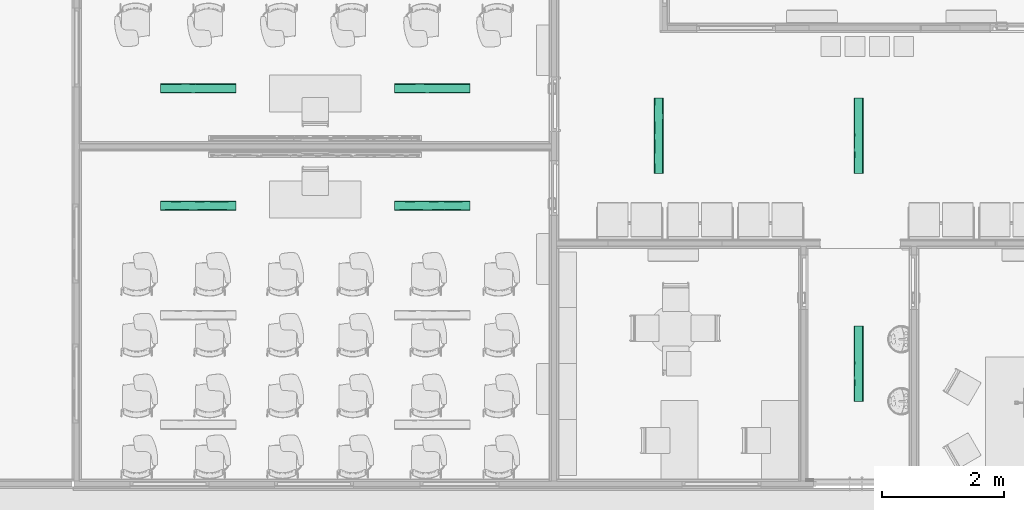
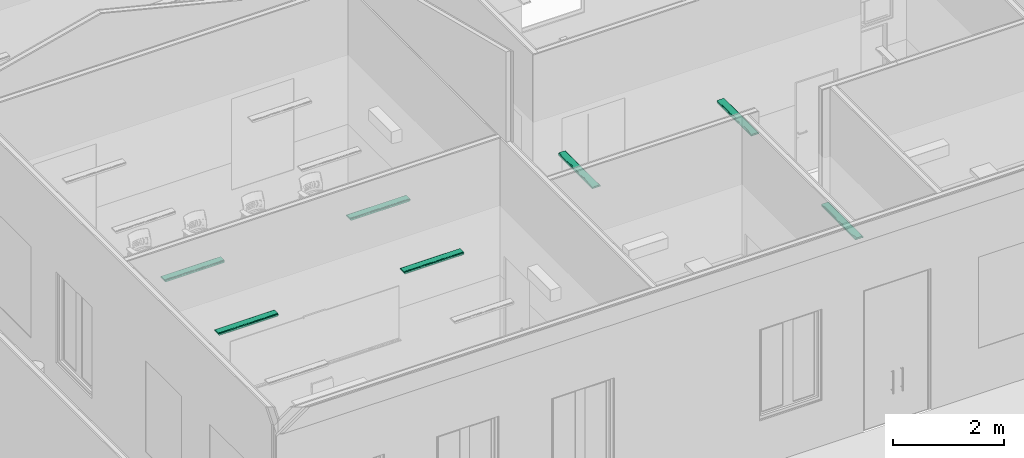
# One storey, part 52 of 155: 7 flow terminals.
"""IFC2X3 building model written with IfcOpenShell, lengths in metres."""

from ifc_helpers import new_model, entity, si_unit, converted_unit, derived_unit, direction, frame, origin, place, context, subcontext, project, spatial, faceted_brep, source, transform, mapped, material, material_list, type_object, type_shapes, element, save


model = new_model("IFC2X3")

# Units and contexts
model_context = context("Model", 3, precision=1e-05, world=origin(), true_north=direction((6.12303176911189e-17, 1.0)))
body_context = subcontext(model_context, "Body", "Model", "MODEL_VIEW")
ifc_project = project(units=[si_unit("LENGTHUNIT", "METRE"), si_unit("AREAUNIT", "SQUARE_METRE"), si_unit("VOLUMEUNIT", "CUBIC_METRE"), converted_unit("PLANEANGLEUNIT", "DEGREE", entity("IfcRatioMeasure", 0.0174532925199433), si_unit("PLANEANGLEUNIT", "RADIAN"), dimensions=[0, 0, 0, 0, 0, 0, 0]), si_unit("MASSUNIT", "GRAM", prefix="KILO"), derived_unit("MASSDENSITYUNIT", [(si_unit("MASSUNIT", "GRAM", prefix="KILO"), 1), (si_unit("LENGTHUNIT", "METRE"), -3)]), si_unit("TIMEUNIT", "SECOND"), si_unit("FREQUENCYUNIT", "HERTZ"), si_unit("THERMODYNAMICTEMPERATUREUNIT", "DEGREE_CELSIUS"), derived_unit("THERMALTRANSMITTANCEUNIT", [(si_unit("MASSUNIT", "GRAM", prefix="KILO"), 1), (si_unit("THERMODYNAMICTEMPERATUREUNIT", "KELVIN"), -1), (si_unit("TIMEUNIT", "SECOND"), -3)]), derived_unit("VOLUMETRICFLOWRATEUNIT", [(si_unit("LENGTHUNIT", "METRE"), 3), (si_unit("TIMEUNIT", "SECOND"), -1)]), si_unit("ELECTRICCURRENTUNIT", "AMPERE"), si_unit("ELECTRICVOLTAGEUNIT", "VOLT"), si_unit("POWERUNIT", "WATT"), si_unit("FORCEUNIT", "NEWTON", prefix="KILO"), si_unit("ILLUMINANCEUNIT", "LUX"), si_unit("LUMINOUSFLUXUNIT", "LUMEN"), si_unit("LUMINOUSINTENSITYUNIT", "CANDELA"), derived_unit("USERDEFINED", [(si_unit("MASSUNIT", "GRAM", prefix="KILO"), -1), (si_unit("LENGTHUNIT", "METRE"), -2), (si_unit("TIMEUNIT", "SECOND"), 3), (si_unit("LUMINOUSFLUXUNIT", "LUMEN"), 1)]), derived_unit("LINEARVELOCITYUNIT", [(si_unit("LENGTHUNIT", "METRE"), 1), (si_unit("TIMEUNIT", "SECOND"), -1)]), si_unit("PRESSUREUNIT", "PASCAL"), derived_unit("USERDEFINED", [(si_unit("LENGTHUNIT", "METRE"), -2), (si_unit("MASSUNIT", "GRAM", prefix="KILO"), 1), (si_unit("TIMEUNIT", "SECOND"), -2)])], contexts=[model_context])

# Site, building, storey, space
site_placement = place(None, frame((26.9889013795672, -17.5624287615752, 0.0)))
site = spatial("IfcSite", under=ifc_project, at=site_placement, Name="Default", CompositionType="ELEMENT")
building_placement = place(site_placement, origin())
building = spatial("IfcBuilding", under=site, at=building_placement, Name="C. C. L. Monsenhor Antônio Sampaio", CompositionType="ELEMENT")
storey_placement = place(building_placement, frame((0.0, 0.0, 1.19999999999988)))
storey = spatial("IfcBuildingStorey", under=building, at=storey_placement, Name="Nível 1.2", CompositionType="ELEMENT", Elevation=1.19999999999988)
space_1_placement = place(storey_placement, origin())
space_1 = spatial("IfcSpace", under=storey, at=space_1_placement, Name="81", CompositionType="ELEMENT", InteriorOrExteriorSpace="INTERNAL")

# Flow terminals
ifc_material_1 = material(Name="glass - blue - t85")
ifc_material_2 = material(Name="metal - aluminium")
ifc_material_list_1 = material_list([ifc_material_1, ifc_material_2])
ifc_material_list_2 = material_list([ifc_material_1, ifc_material_2])
light_fixture_type = type_object("IfcLightFixtureType", Name="BCS460 W16L124 1xLED24/840 MLO-PC", PredefinedType="NOTDEFINED", material=ifc_material_list_2)
shared_shape = source(origin(), body_context, "Body", "Brep", [
    faceted_brep([(0.585000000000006, 0.0435000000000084, -0.0460000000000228), (0.585000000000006, -0.0434999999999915, -0.0460000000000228), (0.585000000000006, -0.0434999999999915, -0.0490000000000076), (0.585000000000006, 0.0435000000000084, -0.0490000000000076), (-0.584999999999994, 0.0435000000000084, -0.0460000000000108), (-0.584999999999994, 0.0435000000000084, -0.0489999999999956), (-0.584999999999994, -0.0434999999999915, -0.0489999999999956), (-0.584999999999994, -0.0434999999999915, -0.0460000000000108)], [[[0, 1, 2, 3]], [[4, 5, 6, 7]], [[3, 5, 4, 0]], [[2, 6, 5, 3]], [[1, 7, 6, 2]], [[0, 4, 7, 1]]]),
    faceted_brep([(-0.584999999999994, -0.0434999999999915, -0.0489999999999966), (0.585000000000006, -0.0434999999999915, -0.0490000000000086), (0.585000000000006, -0.0554999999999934, -0.0490000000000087), (0.417543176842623, -0.0554999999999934, -0.0490000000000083), (0.334912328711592, -0.0554999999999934, -0.0490000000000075), (0.209867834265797, -0.0554999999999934, -0.0490000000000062), (0.0848246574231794, -0.0554999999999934, -0.0490000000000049), (-0.0826321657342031, -0.0554999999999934, -0.0490000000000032), (-0.250087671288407, -0.0554999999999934, -0.0490000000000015), (-0.417543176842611, -0.0554999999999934, -0.0489999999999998), (-0.584999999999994, -0.0554999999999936, -0.0489999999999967), (-0.584999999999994, 0.0435000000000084, -0.0489999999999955), (-0.584999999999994, 0.0555000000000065, -0.0489999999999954), (-0.417543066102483, 0.0555000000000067, -0.0489999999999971), (-0.334913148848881, 0.0555000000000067, -0.048999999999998), (-0.209868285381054, 0.0555000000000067, -0.0489999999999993), (-0.0848248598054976, 0.0555000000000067, -0.0490000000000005), (0.0826306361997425, 0.0555000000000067, -0.0490000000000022), (0.250087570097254, 0.0555000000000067, -0.049000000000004), (0.417544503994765, 0.0555000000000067, -0.0490000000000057), (0.585000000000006, 0.0555000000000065, -0.0490000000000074), (0.585000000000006, 0.0435000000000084, -0.0490000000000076), (0.585000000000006, -0.0434999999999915, -0.0190000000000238), (0.585000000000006, 0.0435000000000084, -0.0190000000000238), (0.585000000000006, 0.0614528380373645, -0.0482162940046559), (0.585000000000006, 0.0670000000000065, -0.0459185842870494), (0.585000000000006, 0.0717634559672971, -0.0422634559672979), (0.585000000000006, 0.0754185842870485, -0.0375000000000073), (0.585000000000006, 0.077716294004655, -0.0319528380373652), (0.585000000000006, 0.0785000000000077, -0.0260000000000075), (0.585000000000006, 0.0785000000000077, 0.0), (0.585000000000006, -0.0784999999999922, 0.0), (0.585000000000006, -0.0784999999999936, -0.02600000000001), (0.585000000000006, -0.0777162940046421, -0.031952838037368), (0.585000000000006, -0.0754185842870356, -0.03750000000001), (0.585000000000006, -0.0717634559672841, -0.0422634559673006), (0.585000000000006, -0.0669999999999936, -0.0459185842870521), (0.585000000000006, -0.0614528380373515, -0.0482162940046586), (-0.584999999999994, 0.0435000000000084, -0.0190000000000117), (-0.584999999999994, -0.0434999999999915, -0.0190000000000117), (-0.584999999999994, -0.0614528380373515, -0.0482162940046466), (-0.584999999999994, -0.0669999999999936, -0.0459185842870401), (-0.584999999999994, -0.0717634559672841, -0.0422634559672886), (-0.584999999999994, -0.0754185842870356, -0.037499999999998), (-0.584999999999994, -0.0777162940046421, -0.031952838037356), (-0.584999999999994, -0.0784999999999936, -0.025999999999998), (-0.584999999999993, -0.0784999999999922, 0.0), (-0.584999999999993, 0.0785000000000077, 0.0), (-0.584999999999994, 0.0785000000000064, -0.0259999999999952), (-0.584999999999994, 0.077716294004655, -0.0319528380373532), (-0.584999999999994, 0.0754185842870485, -0.0374999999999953), (-0.584999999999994, 0.0717634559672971, -0.0422634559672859), (-0.584999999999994, 0.0670000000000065, -0.0459185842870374), (-0.584999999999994, 0.0614528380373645, -0.0482162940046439), (0.417543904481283, 0.0785000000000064, -0.0260000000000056), (0.334912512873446, 0.0785000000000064, -0.0260000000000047), (0.209868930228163, 0.0785000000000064, -0.0260000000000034), (0.0848250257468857, 0.0785000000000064, -0.0260000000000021), (-0.0826310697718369, 0.0785000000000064, -0.0260000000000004), (-0.250087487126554, 0.0785000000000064, -0.0259999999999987), (-0.417543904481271, 0.0785000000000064, -0.025999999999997), (-0.430283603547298, 0.073747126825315, -0.0400015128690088), (-0.39346878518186, 0.069501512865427, -0.0442471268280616), (-0.441987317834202, 0.0643017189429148, -0.0472492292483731), (-0.435801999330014, 0.0759760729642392, -0.0364752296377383), (0.43028360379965, 0.0695015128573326, -0.0442471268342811), (0.393468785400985, 0.0737471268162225, -0.0400015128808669), (-0.166359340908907, 0.0777768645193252, -0.0317220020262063), (-0.333815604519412, 0.078144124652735, -0.0300303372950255), (0.441987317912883, 0.0767492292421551, -0.0348017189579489), (0.376228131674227, 0.0780233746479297, -0.0306580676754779), (-0.0103058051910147, 0.0779837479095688, -0.0308457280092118), (0.147346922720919, 0.0778835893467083, -0.0312891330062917), (0.0846877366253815, 0.0752228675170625, -0.0378325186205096), (0.113930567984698, 0.0669406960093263, -0.0459527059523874), (0.259392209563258, 0.0628104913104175, -0.0478072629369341), (0.138751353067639, 0.0626656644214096, -0.0478552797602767), (-0.327642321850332, 0.0767492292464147, -0.0348017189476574), (-0.44845841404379, 0.0775260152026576, -0.0326222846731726), (0.274715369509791, 0.0767492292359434, -0.0348017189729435), (0.37104983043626, 0.0643017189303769, -0.0472492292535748), (0.333815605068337, 0.0596187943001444, -0.0486282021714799), (0.0893720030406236, 0.0707479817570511, -0.0432191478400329), (-0.0153938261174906, 0.0683034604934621, -0.0451068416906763), (-0.376228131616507, 0.0601580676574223, -0.0485233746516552), (0.0434325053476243, 0.059742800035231, -0.048605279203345), (0.218757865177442, 0.0695015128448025, -0.0442471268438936), (0.464656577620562, 0.0597129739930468, -0.0486108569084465), (0.199843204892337, 0.0732493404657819, -0.0406274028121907), (-0.274715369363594, 0.0643017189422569, -0.0472492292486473), (-0.115235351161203, 0.073747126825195, -0.0400015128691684), (-0.150791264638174, 0.070206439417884, -0.0436839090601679), (-0.272759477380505, 0.0724713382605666, -0.0415233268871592), (-0.00814072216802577, 0.0636892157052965, -0.0474927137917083), (-0.14734692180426, 0.0607891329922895, -0.0483835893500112), (-0.269938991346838, 0.0692956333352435, -0.0444032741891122), (-0.201904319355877, 0.0758204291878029, -0.0367740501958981), (-0.0663340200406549, 0.0763921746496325, -0.0356185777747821), (-0.139314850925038, 0.066006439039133, -0.046460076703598), (-0.430283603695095, -0.0695015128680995, -0.0442471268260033), (-0.393468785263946, -0.073747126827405, -0.0400015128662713), (-0.44198731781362, -0.0767492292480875, -0.0348017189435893), (-0.435801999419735, -0.06597522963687, -0.0464760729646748), (0.430283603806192, -0.0737471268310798, -0.0400015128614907), (0.393468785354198, -0.0695015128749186, -0.0442471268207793), (-0.166359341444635, -0.061222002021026, -0.0482768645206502), (-0.333815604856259, -0.0595303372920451, -0.0486441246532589), (0.441987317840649, -0.0643017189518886, -0.0472492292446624), (0.37622813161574, -0.0601580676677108, -0.0485233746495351), (-0.0103058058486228, -0.0603457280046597, -0.0484837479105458), (0.147346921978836, -0.0607891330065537, -0.0483835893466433), (0.0846877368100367, -0.0673325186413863, -0.0457228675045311), (0.113930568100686, -0.0754527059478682, -0.0374406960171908), (0.259392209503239, -0.0773072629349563, -0.0333104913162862), (0.138751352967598, -0.0773552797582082, -0.0331656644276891), (-0.327642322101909, -0.0643017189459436, -0.047249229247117), (-0.448458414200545, -0.062122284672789, -0.048026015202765), (-0.417543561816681, -0.0784999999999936, -0.0259999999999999), (0.274715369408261, -0.0643017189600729, -0.0472492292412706), (0.371049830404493, -0.0767492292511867, -0.0348017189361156), (0.333815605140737, -0.0781282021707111, -0.0301187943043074), (0.250087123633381, -0.0784999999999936, -0.0260000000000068), (0.0893720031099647, -0.0727191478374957, -0.041247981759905), (-0.0153938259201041, -0.074606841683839, -0.0388034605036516), (-0.376228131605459, -0.0780233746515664, -0.0306580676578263), (0.0826306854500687, -0.0784999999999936, -0.026000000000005), (-0.0848257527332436, -0.0784999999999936, -0.0260000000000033), (0.0434325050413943, -0.0781052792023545, -0.030242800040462), (0.417543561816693, -0.0784999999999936, -0.0260000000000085), (0.21875786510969, -0.0737471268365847, -0.0400015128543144), (0.464656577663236, -0.0781108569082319, -0.0302129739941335), (0.19984320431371, -0.0701274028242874, -0.0437493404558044), (-0.274715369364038, -0.0767492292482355, -0.0348017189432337), (-0.115235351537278, -0.0695015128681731, -0.0442471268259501), (-0.150791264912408, -0.0731839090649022, -0.0407064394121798), (-0.209869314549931, -0.0784999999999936, -0.026000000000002), (-0.334912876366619, -0.0784999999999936, -0.0260000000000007), (-0.272759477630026, -0.071023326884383, -0.0429713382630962), (-0.00814072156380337, -0.0769927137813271, -0.0341892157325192), (-0.147346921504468, -0.0778835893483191, -0.03128913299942), (-0.269938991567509, -0.0739032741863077, -0.0397956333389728), (-0.201904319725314, -0.0662740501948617, -0.0463204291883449), (-0.0663340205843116, -0.0651185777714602, -0.0468921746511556), (-0.139314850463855, -0.0759600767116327, -0.0365064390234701)], [[[0, 1, 2, 3, 4, 5, 6, 7, 8, 9, 10]], [[11, 12, 13, 14, 15, 16, 17, 18, 19, 20, 21]], [[22, 23, 21, 20, 24, 25, 26, 27, 28, 29, 30, 31, 32, 33, 34, 35, 36, 37, 2, 1]], [[12, 11, 38, 39, 0, 10, 40, 41, 42, 43, 44, 45, 46, 47, 48, 49, 50, 51, 52, 53]], [[47, 30, 29, 54, 55, 56, 57, 58, 59, 60, 48]], [[61, 51, 50]], [[62, 51, 61]], [[51, 62, 52]], [[62, 63, 52]], [[63, 53, 52]], [[61, 50, 64]], [[26, 65, 66]], [[26, 25, 65]], [[54, 29, 28]], [[67, 68, 59]], [[69, 70, 28]], [[71, 72, 73]], [[74, 75, 76]], [[26, 66, 27]], [[77, 78, 68]], [[13, 12, 53]], [[69, 27, 66]], [[79, 73, 72]], [[24, 80, 25]], [[70, 79, 72]], [[69, 28, 27]], [[75, 81, 18]], [[82, 74, 83]], [[63, 84, 53]], [[17, 16, 85]], [[19, 18, 81]], [[75, 74, 86]], [[87, 81, 80]], [[73, 79, 88]], [[70, 56, 55, 54]], [[80, 86, 65]], [[89, 63, 62]], [[90, 83, 91]], [[84, 15, 14, 13]], [[61, 77, 92]], [[59, 68, 60]], [[78, 49, 48]], [[20, 87, 24]], [[93, 76, 85]], [[66, 65, 86]], [[65, 25, 80]], [[62, 61, 92]], [[77, 64, 78]], [[92, 90, 91]], [[89, 94, 84]], [[28, 70, 54]], [[79, 69, 66]], [[53, 84, 13]], [[91, 95, 92]], [[96, 90, 92]], [[56, 72, 57]], [[70, 69, 79]], [[70, 72, 56]], [[67, 59, 58]], [[71, 67, 58]], [[71, 58, 57]], [[83, 90, 82]], [[88, 82, 73]], [[96, 97, 90]], [[71, 73, 97]], [[15, 94, 16]], [[84, 63, 89]], [[84, 94, 15]], [[98, 83, 93]], [[83, 98, 91]], [[18, 17, 76]], [[62, 92, 95]], [[98, 95, 91]], [[98, 94, 89]], [[74, 76, 93]], [[93, 94, 98]], [[85, 16, 94]], [[19, 81, 87]], [[80, 81, 75]], [[19, 87, 20]], [[24, 87, 80]], [[78, 48, 60]], [[77, 68, 67]], [[68, 78, 60]], [[49, 78, 50]], [[78, 64, 50]], [[64, 77, 61]], [[94, 93, 85]], [[85, 76, 17]], [[97, 67, 71]], [[72, 71, 57]], [[77, 67, 96]], [[90, 97, 73]], [[97, 96, 67]], [[77, 96, 92]], [[80, 75, 86]], [[76, 75, 18]], [[95, 89, 62]], [[89, 95, 98]], [[86, 74, 82]], [[83, 74, 93]], [[86, 82, 88]], [[73, 82, 90]], [[88, 66, 86]], [[66, 88, 79]], [[99, 42, 41]], [[100, 42, 99]], [[42, 100, 43]], [[100, 101, 43]], [[101, 44, 43]], [[99, 41, 102]], [[35, 103, 104]], [[35, 34, 103]], [[3, 2, 37]], [[105, 106, 8]], [[107, 108, 37]], [[109, 110, 111]], [[112, 113, 114]], [[35, 104, 36]], [[115, 116, 106]], [[117, 45, 44]], [[107, 36, 104]], [[118, 111, 110]], [[33, 119, 34]], [[108, 118, 110]], [[107, 37, 36]], [[113, 120, 121]], [[122, 112, 123]], [[101, 124, 44]], [[125, 126, 127]], [[128, 121, 120]], [[113, 112, 129]], [[130, 120, 119]], [[111, 118, 131]], [[108, 5, 4, 3]], [[119, 129, 103]], [[132, 101, 100]], [[133, 123, 134]], [[124, 135, 136, 117]], [[99, 115, 137]], [[8, 106, 9]], [[116, 40, 10]], [[32, 130, 33]], [[138, 114, 127]], [[104, 103, 129]], [[103, 34, 119]], [[100, 99, 137]], [[115, 102, 116]], [[137, 133, 134]], [[132, 139, 124]], [[37, 108, 3]], [[118, 107, 104]], [[44, 124, 117]], [[134, 140, 137]], [[141, 133, 137]], [[5, 110, 6]], [[108, 107, 118]], [[108, 110, 5]], [[105, 8, 7]], [[109, 105, 7]], [[109, 7, 6]], [[123, 133, 122]], [[131, 122, 111]], [[141, 142, 133]], [[109, 111, 142]], [[135, 139, 126]], [[124, 101, 132]], [[124, 139, 135]], [[143, 123, 138]], [[123, 143, 134]], [[121, 125, 114]], [[100, 137, 140]], [[143, 140, 134]], [[143, 139, 132]], [[112, 114, 138]], [[138, 139, 143]], [[127, 126, 139]], [[128, 120, 130]], [[119, 120, 113]], [[128, 130, 32]], [[33, 130, 119]], [[116, 10, 9]], [[115, 106, 105]], [[106, 116, 9]], [[40, 116, 41]], [[116, 102, 41]], [[102, 115, 99]], [[139, 138, 127]], [[127, 114, 125]], [[142, 105, 109]], [[110, 109, 6]], [[115, 105, 141]], [[133, 142, 111]], [[142, 141, 105]], [[115, 141, 137]], [[119, 113, 129]], [[114, 113, 121]], [[140, 132, 100]], [[132, 140, 143]], [[129, 112, 122]], [[123, 112, 138]], [[129, 122, 131]], [[111, 122, 133]], [[131, 104, 129]], [[104, 131, 118]], [[31, 46, 45, 117, 136, 135, 126, 125, 121, 128, 32]], [[46, 31, 30, 47]], [[21, 23, 38, 11]], [[22, 1, 0, 39]], [[23, 22, 39, 38]]]),
    faceted_brep([(0.597000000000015, 0.0785000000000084, 0.0), (0.602952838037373, 0.0785000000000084, -0.000783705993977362), (0.608500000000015, 0.0785000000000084, -0.00308141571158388), (0.613263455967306, 0.0785000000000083, -0.00673654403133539), (0.616918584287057, 0.0785000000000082, -0.011499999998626), (0.619216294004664, 0.0785000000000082, -0.017047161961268), (0.620000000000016, 0.0785000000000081, -0.0229999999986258), (0.620000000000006, 0.0785000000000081, -0.0259999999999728), (0.585000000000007, 0.0785000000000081, -0.0259999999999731), (0.585000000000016, 0.0785000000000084, 0.0), (0.619216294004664, -0.0784999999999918, -0.0170471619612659), (0.616918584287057, -0.0784999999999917, -0.0114999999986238), (0.613263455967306, -0.0784999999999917, -0.00673654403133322), (0.608500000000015, -0.0784999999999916, -0.00308141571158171), (0.602952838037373, -0.0784999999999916, -0.000783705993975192), (0.597000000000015, -0.0784999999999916, 0.0), (0.585000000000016, -0.0784999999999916, 0.0), (0.585000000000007, -0.0784999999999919, -0.0260000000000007), (0.620000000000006, -0.0784999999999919, -0.0260000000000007), (0.620000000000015, -0.0784999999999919, -0.0229999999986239), (0.620000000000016, 0.0669999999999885, -0.0459185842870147), (0.620000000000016, 0.0717634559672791, -0.0422634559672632), (0.620000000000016, 0.0754185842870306, -0.0374999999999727), (0.620000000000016, 0.0777162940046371, -0.0319528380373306), (0.620000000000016, -0.0777162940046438, -0.0319528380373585), (0.620000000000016, -0.0754185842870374, -0.0375000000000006), (0.620000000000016, -0.071763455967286, -0.0422634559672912), (0.620000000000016, -0.0669999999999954, -0.0459185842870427), (0.620000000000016, -0.0614528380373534, -0.0482162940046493), (0.620000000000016, -0.0554999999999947, -0.0489999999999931), (0.620000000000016, 0.0554999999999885, -0.0489999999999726), (0.620000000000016, 0.0614528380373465, -0.0482162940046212), (0.585000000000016, 0.0554999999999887, -0.048999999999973), (0.585000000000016, -0.0554999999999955, -0.0490000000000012), (0.585000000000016, -0.0614528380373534, -0.0482162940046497), (0.585000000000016, -0.0669999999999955, -0.0459185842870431), (0.585000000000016, -0.071763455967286, -0.0422634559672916), (0.585000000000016, -0.0754185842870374, -0.0375000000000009), (0.585000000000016, -0.0777162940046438, -0.0319528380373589), (0.585000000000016, 0.0777162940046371, -0.031952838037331), (0.585000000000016, 0.0754185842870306, -0.037499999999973), (0.585000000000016, 0.0717634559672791, -0.0422634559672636), (0.585000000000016, 0.0669999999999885, -0.0459185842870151), (0.585000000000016, 0.0614528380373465, -0.0482162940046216)], [[[0, 1, 2, 3, 4, 5, 6, 7, 8, 9]], [[10, 11, 12, 13, 14, 15, 16, 17, 18, 19]], [[20, 21, 22, 23, 7, 6, 19, 18, 24, 25, 26, 27, 28, 29, 30, 31]], [[32, 33, 34, 35, 36, 37, 38, 17, 16, 9, 8, 39, 40, 41, 42, 43]], [[16, 15, 0, 9]], [[11, 10, 5, 4]], [[12, 11, 4, 3]], [[6, 5, 10, 19]], [[14, 13, 2, 1]], [[15, 14, 1, 0]], [[2, 13, 12, 3]], [[43, 31, 30, 32]], [[43, 42, 20, 31]], [[21, 20, 42, 41]], [[23, 22, 40, 39]], [[7, 23, 39, 8]], [[40, 22, 21, 41]], [[29, 33, 32, 30]], [[25, 24, 38, 37]], [[26, 25, 37, 36]], [[17, 38, 24, 18]], [[28, 27, 35, 34]], [[29, 28, 34, 33]], [[35, 27, 26, 36]]]),
    faceted_brep([(-0.608499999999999, 0.0785000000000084, -0.00308141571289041), (-0.602952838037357, 0.0785000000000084, -0.000783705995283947), (-0.597, 0.0785000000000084, 0.0), (-0.584999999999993, 0.0785000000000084, 0.0), (-0.584999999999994, 0.0785000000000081, -0.0260000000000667), (-0.619999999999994, 0.0785000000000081, -0.0260000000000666), (-0.619999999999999, 0.0785000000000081, -0.0229999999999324), (-0.619216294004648, 0.0785000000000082, -0.0170471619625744), (-0.616918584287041, 0.0785000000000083, -0.0114999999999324), (-0.61326345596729, 0.0785000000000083, -0.00673654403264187), (-0.584999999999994, -0.0784999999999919, -0.0260000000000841), (-0.584999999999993, -0.0784999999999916, 0.0), (-0.596999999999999, -0.0784999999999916, 0.0), (-0.602952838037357, -0.0784999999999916, -0.000783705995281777), (-0.608499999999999, -0.0784999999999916, -0.00308141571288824), (-0.61326345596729, -0.0784999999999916, -0.0067365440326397), (-0.616918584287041, -0.0784999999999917, -0.0114999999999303), (-0.619216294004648, -0.0784999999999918, -0.0170471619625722), (-0.619999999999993, -0.0784999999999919, -0.0229999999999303), (-0.619999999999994, -0.0784999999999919, -0.0260000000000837), (-0.619999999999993, 0.0777162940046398, -0.0319528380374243), (-0.619999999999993, 0.0754185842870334, -0.0375000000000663), (-0.619999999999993, 0.071763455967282, -0.042263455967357), (-0.619999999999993, 0.0669999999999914, -0.0459185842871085), (-0.619999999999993, 0.0614528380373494, -0.048216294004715), (-0.619999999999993, 0.0554999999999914, -0.0490000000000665), (-0.619999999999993, -0.0554999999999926, -0.0490000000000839), (-0.619999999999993, -0.0614528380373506, -0.0482162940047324), (-0.619999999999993, -0.0669999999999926, -0.0459185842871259), (-0.619999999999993, -0.0717634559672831, -0.0422634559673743), (-0.619999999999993, -0.0754185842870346, -0.0375000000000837), (-0.619999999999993, -0.0777162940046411, -0.0319528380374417), (-0.584999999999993, 0.0614528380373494, -0.0482162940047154), (-0.584999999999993, 0.0669999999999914, -0.0459185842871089), (-0.584999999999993, 0.071763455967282, -0.0422634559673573), (-0.584999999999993, 0.0754185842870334, -0.0375000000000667), (-0.584999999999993, 0.0777162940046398, -0.0319528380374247), (-0.584999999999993, -0.0777162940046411, -0.0319528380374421), (-0.584999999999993, -0.0754185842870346, -0.0375000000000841), (-0.584999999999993, -0.0717634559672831, -0.0422634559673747), (-0.584999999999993, -0.0669999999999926, -0.0459185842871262), (-0.584999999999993, -0.0614528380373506, -0.0482162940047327), (-0.584999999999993, -0.0554999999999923, -0.0490000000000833), (-0.584999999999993, 0.0554999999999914, -0.0490000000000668)], [[[0, 1, 2, 3, 4, 5, 6, 7, 8, 9]], [[10, 11, 12, 13, 14, 15, 16, 17, 18, 19]], [[5, 20, 21, 22, 23, 24, 25, 26, 27, 28, 29, 30, 31, 19, 18, 6]], [[32, 33, 34, 35, 36, 4, 3, 11, 10, 37, 38, 39, 40, 41, 42, 43]], [[12, 11, 3, 2]], [[14, 13, 1, 0]], [[15, 14, 0, 9]], [[2, 1, 13, 12]], [[17, 16, 8, 7]], [[18, 17, 7, 6]], [[8, 16, 15, 9]], [[22, 21, 35, 34]], [[36, 20, 5, 4]], [[21, 20, 36, 35]], [[24, 23, 33, 32]], [[25, 24, 32, 43]], [[33, 23, 22, 34]], [[26, 25, 43, 42]], [[28, 27, 41, 40]], [[29, 28, 40, 39]], [[42, 41, 27, 26]], [[31, 30, 38, 37]], [[19, 31, 37, 10]], [[38, 30, 29, 39]]]),
])
type_shapes(light_fixture_type, [shared_shape])
flow_terminal_1_placement = place(space_1_placement, frame((-8.21555229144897, -32.8730663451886, 3.1), z_axis=(0.0, 0.0, -1.0), x_axis=(-1.0, 0.0, 0.0)))
element("IfcFlowTerminal", 1, at=flow_terminal_1_placement, inside=space_1, type_object=light_fixture_type, material=ifc_material_list_1, Name="63_PHILIPS_smartform-LED-surface_f:BCS460 W16L124 1xLED24/840 MLO-PC", ObjectType="BCS460 W16L124 1xLED24/840 MLO-PC", context=body_context, shape_type="MappedRepresentation", body=[
    mapped(shared_shape, transform((0.0, 0.0, 0.0), scale=1.0)),
])
ifc_material_list_3 = material_list([ifc_material_1, ifc_material_2])
flow_terminal_2_placement = place(space_1_placement, frame((-12.0655522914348, -32.8730663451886, 3.1), z_axis=(0.0, 0.0, -1.0), x_axis=(-1.0, 0.0, 0.0)))
element("IfcFlowTerminal", 2, at=flow_terminal_2_placement, inside=space_1, type_object=light_fixture_type, material=ifc_material_list_3, Name="63_PHILIPS_smartform-LED-surface_f:BCS460 W16L124 1xLED24/840 MLO-PC", ObjectType="BCS460 W16L124 1xLED24/840 MLO-PC", context=body_context, shape_type="MappedRepresentation", body=[
    mapped(shared_shape, transform((0.0, 0.0, 0.0), scale=1.0)),
])

# Space
space_2_placement = place(storey_placement, origin())
space_2 = spatial("IfcSpace", under=storey, at=space_2_placement, Name="80", CompositionType="ELEMENT", InteriorOrExteriorSpace="INTERNAL")

# Flow terminals
ifc_material_list_4 = material_list([ifc_material_1, ifc_material_2])
flow_terminal_3_placement = place(space_2_placement, frame((-8.21555229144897, -34.8030663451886, 3.1), z_axis=(0.0, 0.0, -1.0), x_axis=(-1.0, 0.0, 0.0)))
element("IfcFlowTerminal", 3, at=flow_terminal_3_placement, inside=space_2, type_object=light_fixture_type, material=ifc_material_list_4, Name="63_PHILIPS_smartform-LED-surface_f:BCS460 W16L124 1xLED24/840 MLO-PC", ObjectType="BCS460 W16L124 1xLED24/840 MLO-PC", context=body_context, shape_type="MappedRepresentation", body=[
    mapped(shared_shape, transform((0.0, 0.0, 0.0), scale=1.0)),
])
ifc_material_list_5 = material_list([ifc_material_1, ifc_material_2])
flow_terminal_4_placement = place(space_2_placement, frame((-12.065552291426, -34.8030663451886, 3.1), z_axis=(0.0, 0.0, -1.0), x_axis=(-1.0, 0.0, 0.0)))
element("IfcFlowTerminal", 4, at=flow_terminal_4_placement, inside=space_2, type_object=light_fixture_type, material=ifc_material_list_5, Name="63_PHILIPS_smartform-LED-surface_f:BCS460 W16L124 1xLED24/840 MLO-PC", ObjectType="BCS460 W16L124 1xLED24/840 MLO-PC", context=body_context, shape_type="MappedRepresentation", body=[
    mapped(shared_shape, transform((0.0, 0.0, 0.0), scale=1.0)),
])

# Space
space_3_placement = place(storey_placement, origin())
space_3 = spatial("IfcSpace", under=storey, at=space_3_placement, Name="100", CompositionType="ELEMENT", InteriorOrExteriorSpace="INTERNAL")

# Flow terminal
ifc_material_list_6 = material_list([ifc_material_1, ifc_material_2])
flow_terminal_5_placement = place(space_3_placement, frame((-1.20555229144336, -37.4030744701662, 3.1), z_axis=(0.0, 0.0, -1.0), x_axis=(0.0, -1.0, 0.0)))
element("IfcFlowTerminal", 5, at=flow_terminal_5_placement, inside=space_3, type_object=light_fixture_type, material=ifc_material_list_6, Name="63_PHILIPS_smartform-LED-surface_f:BCS460 W16L124 1xLED24/840 MLO-PC", ObjectType="BCS460 W16L124 1xLED24/840 MLO-PC", context=body_context, shape_type="MappedRepresentation", body=[
    mapped(shared_shape, transform((0.0, 0.0, 0.0), scale=1.0)),
])

# Space
space_4_placement = place(storey_placement, origin())
space_4 = spatial("IfcSpace", under=storey, at=space_4_placement, Name="101", CompositionType="ELEMENT", InteriorOrExteriorSpace="INTERNAL")

# Flow terminals
ifc_material_list_7 = material_list([ifc_material_1, ifc_material_2])
flow_terminal_6_placement = place(space_4_placement, frame((-1.20555229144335, -33.6530663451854, 3.1), z_axis=(0.0, 0.0, -1.0), x_axis=(0.0, -1.0, 0.0)))
element("IfcFlowTerminal", 6, at=flow_terminal_6_placement, inside=space_4, type_object=light_fixture_type, material=ifc_material_list_7, Name="63_PHILIPS_smartform-LED-surface_f:BCS460 W16L124 1xLED24/840 MLO-PC", ObjectType="BCS460 W16L124 1xLED24/840 MLO-PC", context=body_context, shape_type="MappedRepresentation", body=[
    mapped(shared_shape, transform((0.0, 0.0, 0.0), scale=1.0)),
])
ifc_material_list_8 = material_list([ifc_material_1, ifc_material_2])
flow_terminal_7_placement = place(space_4_placement, frame((-4.49555229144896, -33.6530663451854, 3.1), z_axis=(0.0, 0.0, -1.0), x_axis=(0.0, -1.0, 0.0)))
element("IfcFlowTerminal", 7, at=flow_terminal_7_placement, inside=space_4, type_object=light_fixture_type, material=ifc_material_list_8, Name="63_PHILIPS_smartform-LED-surface_f:BCS460 W16L124 1xLED24/840 MLO-PC", ObjectType="BCS460 W16L124 1xLED24/840 MLO-PC", context=body_context, shape_type="MappedRepresentation", body=[
    mapped(shared_shape, transform((0.0, 0.0, 0.0), scale=1.0)),
])

save(model, "model.ifc")
